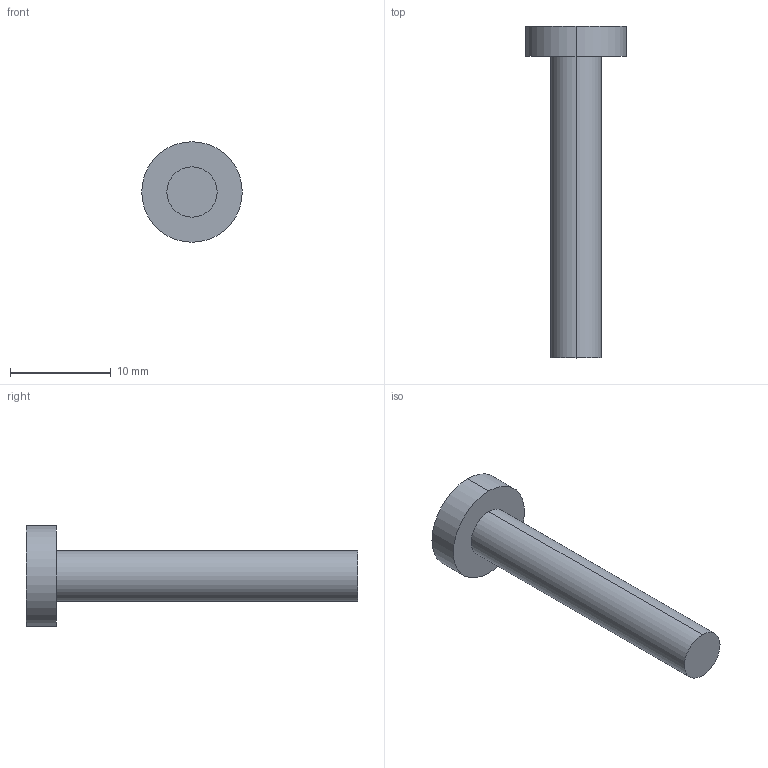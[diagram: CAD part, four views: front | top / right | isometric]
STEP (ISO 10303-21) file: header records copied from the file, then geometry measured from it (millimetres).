
FILE_DESCRIPTION (( 'STEP AP214' ), '1' );
FILE_NAME ('Pin.STEP', '2021-10-04T10:28:51', ( '' ), ( '' ), 'SwSTEP 2.0', 'SolidWorks 2021', '' );
FILE_SCHEMA (( 'AUTOMOTIVE_DESIGN' ));
Length unit declared in the file: millimetre
Products named in the file (1): Pin
Bounding box: 10 x 33 x 10 mm (x, y, z)
Volume: 824.7 mm3; surface area: 722.6 mm2
Topology: 1 solids, 1 shells, 7 faces, 12 edges, 8 vertices
Faces by surface type: cylinder 4, plane 3
Entity records: 208 total; most frequent: DIRECTION 36, CARTESIAN_POINT 28, ORIENTED_EDGE 24, AXIS2_PLACEMENT_3D 16, EDGE_CURVE 12, CIRCLE 8, EDGE_LOOP 8, VERTEX_POINT 8
